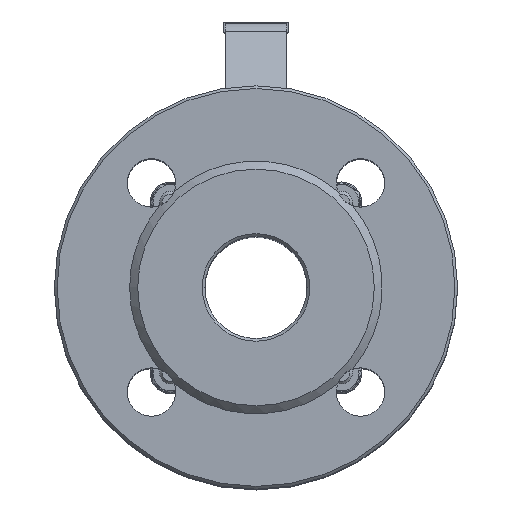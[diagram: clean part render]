
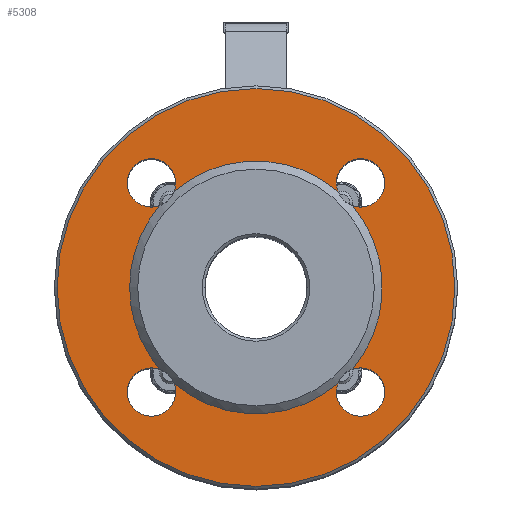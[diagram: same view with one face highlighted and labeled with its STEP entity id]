
A CAD part, top view. The second image highlights one B-rep face of the part: STEP entity #5308.
In plain terms, the highlighted planar face has unit normal (0, 0, 1).
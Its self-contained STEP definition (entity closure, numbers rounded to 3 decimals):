
#5308=ADVANCED_FACE('',(#16805,#16807),#16809,.F.);
#16805=FACE_BOUND('',#16806,.T.);
#16806=EDGE_LOOP('',(#25832));
#16807=FACE_BOUND('',#16808,.T.);
#16808=EDGE_LOOP('',(#25833,#25834,#25835,#25836,#25837,#25838,#25839,#25840,#25841,
#25842,#25843,#25844,#25845));
#16809=PLANE('',#16810);
#16810=AXIS2_PLACEMENT_3D('',#16811,#16812,#16813);
#16811=CARTESIAN_POINT('',(0.,0.,97.));
#16812=DIRECTION('',(0.,0.,-1.));
#16813=DIRECTION('',(-1.,0.,0.));
#25832=ORIENTED_EDGE('',*,*,#29645,.F.);
#25833=ORIENTED_EDGE('',*,*,#29646,.F.);
#25834=ORIENTED_EDGE('',*,*,#29618,.F.);
#25835=ORIENTED_EDGE('',*,*,#29617,.F.);
#25836=ORIENTED_EDGE('',*,*,#29647,.F.);
#25837=ORIENTED_EDGE('',*,*,#29622,.F.);
#25838=ORIENTED_EDGE('',*,*,#29621,.F.);
#25839=ORIENTED_EDGE('',*,*,#29648,.F.);
#25840=ORIENTED_EDGE('',*,*,#29625,.F.);
#25841=ORIENTED_EDGE('',*,*,#29624,.F.);
#25842=ORIENTED_EDGE('',*,*,#29649,.F.);
#25843=ORIENTED_EDGE('',*,*,#29650,.F.);
#25844=ORIENTED_EDGE('',*,*,#29615,.F.);
#25845=ORIENTED_EDGE('',*,*,#29614,.F.);
#29614=EDGE_CURVE('',#35719,#35720,#35721,.T.);
#29615=EDGE_CURVE('',#35720,#35722,#35723,.T.);
#29617=EDGE_CURVE('',#35725,#35726,#35727,.T.);
#29618=EDGE_CURVE('',#35726,#35728,#35729,.T.);
#29621=EDGE_CURVE('',#35732,#35734,#35735,.T.);
#29622=EDGE_CURVE('',#35734,#35731,#35736,.T.);
#29624=EDGE_CURVE('',#35738,#35740,#35741,.T.);
#29625=EDGE_CURVE('',#35740,#35737,#35742,.T.);
#29645=EDGE_CURVE('',#35777,#35777,#35778,.T.);
#29646=EDGE_CURVE('',#35728,#35719,#35779,.T.);
#29647=EDGE_CURVE('',#35731,#35725,#35780,.T.);
#29648=EDGE_CURVE('',#35737,#35732,#35781,.T.);
#29649=EDGE_CURVE('',#35782,#35738,#35783,.T.);
#29650=EDGE_CURVE('',#35722,#35782,#35784,.T.);
#35719=VERTEX_POINT('',#57835);
#35720=VERTEX_POINT('',#57836);
#35721=CIRCLE('',#57837,9.);
#35722=VERTEX_POINT('',#57841);
#35723=CIRCLE('',#57842,9.);
#35725=VERTEX_POINT('',#57930);
#35726=VERTEX_POINT('',#57931);
#35727=CIRCLE('',#57932,9.);
#35728=VERTEX_POINT('',#57936);
#35729=CIRCLE('',#57937,9.);
#35731=VERTEX_POINT('',#58025);
#35732=VERTEX_POINT('',#58026);
#35734=VERTEX_POINT('',#58111);
#35735=CIRCLE('',#58112,9.);
#35736=CIRCLE('',#58116,9.);
#35737=VERTEX_POINT('',#58120);
#35738=VERTEX_POINT('',#58121);
#35740=VERTEX_POINT('',#58206);
#35741=CIRCLE('',#58207,9.);
#35742=CIRCLE('',#58211,9.);
#35777=VERTEX_POINT('',#58306);
#35778=CIRCLE('',#58307,74.);
#35779=CIRCLE('',#58311,47.);
#35780=CIRCLE('',#58315,47.);
#35781=CIRCLE('',#58319,47.);
#35782=VERTEX_POINT('',#58323);
#35783=CIRCLE('',#58324,47.);
#35784=CIRCLE('',#58328,47.);
#57835=CARTESIAN_POINT('',(-30.432,35.818,97.));
#57836=CARTESIAN_POINT('',(-47.891,38.891,97.));
#57837=AXIS2_PLACEMENT_3D('',#57838,#57839,#57840);
#57838=CARTESIAN_POINT('',(-38.891,38.891,97.));
#57839=DIRECTION('',(0.,0.,1.));
#57840=DIRECTION('',(0.94,-0.341,0.));
#57841=CARTESIAN_POINT('',(-35.818,30.432,97.));
#57842=AXIS2_PLACEMENT_3D('',#57843,#57844,#57845);
#57843=CARTESIAN_POINT('',(-38.891,38.891,97.));
#57844=DIRECTION('',(0.,0.,1.));
#57845=DIRECTION('',(-1.,0.,0.));
#57930=CARTESIAN_POINT('',(35.818,30.432,97.));
#57931=CARTESIAN_POINT('',(29.891,38.891,97.));
#57932=AXIS2_PLACEMENT_3D('',#57933,#57934,#57935);
#57933=CARTESIAN_POINT('',(38.891,38.891,97.));
#57934=DIRECTION('',(0.,0.,1.));
#57935=DIRECTION('',(-0.341,-0.94,0.));
#57936=CARTESIAN_POINT('',(30.432,35.818,97.));
#57937=AXIS2_PLACEMENT_3D('',#57938,#57939,#57940);
#57938=CARTESIAN_POINT('',(38.891,38.891,97.));
#57939=DIRECTION('',(0.,0.,1.));
#57940=DIRECTION('',(-1.,0.,0.));
#58025=CARTESIAN_POINT('',(35.818,-30.432,97.));
#58026=CARTESIAN_POINT('',(30.432,-35.818,97.));
#58111=CARTESIAN_POINT('',(29.891,-38.891,97.));
#58112=AXIS2_PLACEMENT_3D('',#58113,#58114,#58115);
#58113=CARTESIAN_POINT('',(38.891,-38.891,97.));
#58114=DIRECTION('',(0.,0.,1.));
#58115=DIRECTION('',(-0.94,0.341,0.));
#58116=AXIS2_PLACEMENT_3D('',#58117,#58118,#58119);
#58117=CARTESIAN_POINT('',(38.891,-38.891,97.));
#58118=DIRECTION('',(0.,0.,1.));
#58119=DIRECTION('',(-1.,0.,0.));
#58120=CARTESIAN_POINT('',(-30.432,-35.818,97.));
#58121=CARTESIAN_POINT('',(-35.818,-30.432,97.));
#58206=CARTESIAN_POINT('',(-47.891,-38.891,97.));
#58207=AXIS2_PLACEMENT_3D('',#58208,#58209,#58210);
#58208=CARTESIAN_POINT('',(-38.891,-38.891,97.));
#58209=DIRECTION('',(0.,0.,1.));
#58210=DIRECTION('',(0.341,0.94,0.));
#58211=AXIS2_PLACEMENT_3D('',#58212,#58213,#58214);
#58212=CARTESIAN_POINT('',(-38.891,-38.891,97.));
#58213=DIRECTION('',(0.,0.,1.));
#58214=DIRECTION('',(-1.,0.,0.));
#58306=CARTESIAN_POINT('',(-74.,0.,97.));
#58307=AXIS2_PLACEMENT_3D('',#58308,#58309,#58310);
#58308=CARTESIAN_POINT('',(0.,0.,97.));
#58309=DIRECTION('',(0.,0.,-1.));
#58310=DIRECTION('',(-1.,0.,0.));
#58311=AXIS2_PLACEMENT_3D('',#58312,#58313,#58314);
#58312=CARTESIAN_POINT('',(0.,0.,97.));
#58313=DIRECTION('',(0.,0.,1.));
#58314=DIRECTION('',(0.647,0.762,0.));
#58315=AXIS2_PLACEMENT_3D('',#58316,#58317,#58318);
#58316=CARTESIAN_POINT('',(0.,0.,97.));
#58317=DIRECTION('',(0.,0.,1.));
#58318=DIRECTION('',(0.762,-0.647,0.));
#58319=AXIS2_PLACEMENT_3D('',#58320,#58321,#58322);
#58320=CARTESIAN_POINT('',(0.,0.,97.));
#58321=DIRECTION('',(0.,0.,1.));
#58322=DIRECTION('',(-0.647,-0.762,0.));
#58323=CARTESIAN_POINT('',(-47.,0.,97.));
#58324=AXIS2_PLACEMENT_3D('',#58325,#58326,#58327);
#58325=CARTESIAN_POINT('',(0.,0.,97.));
#58326=DIRECTION('',(0.,0.,1.));
#58327=DIRECTION('',(-1.,0.,0.));
#58328=AXIS2_PLACEMENT_3D('',#58329,#58330,#58331);
#58329=CARTESIAN_POINT('',(0.,0.,97.));
#58330=DIRECTION('',(0.,0.,1.));
#58331=DIRECTION('',(-0.762,0.647,0.));
